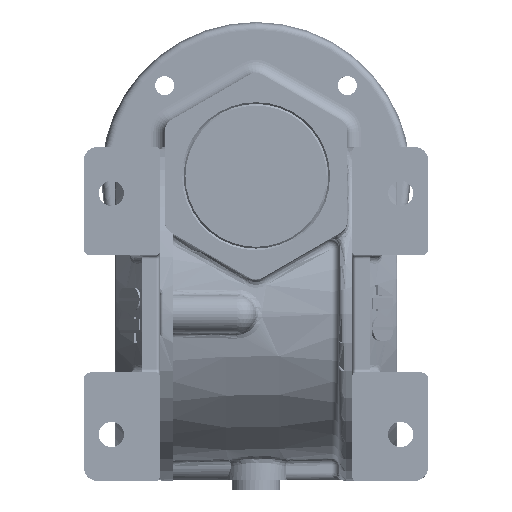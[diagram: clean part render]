
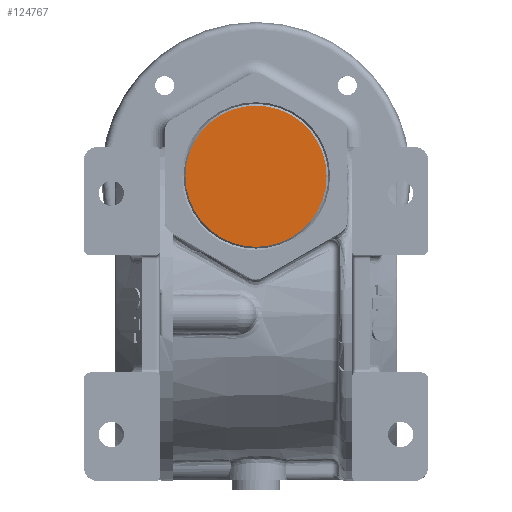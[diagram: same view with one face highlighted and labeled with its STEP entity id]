
A CAD part, top view. The second image highlights one B-rep face of the part: STEP entity #124767.
In plain terms, the highlighted planar face has unit normal (0, 0, 1).
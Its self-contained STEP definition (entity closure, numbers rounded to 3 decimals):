
#124591 = EDGE_CURVE ( 'NONE', #124592, #124593, #201325, .T. ) ;
#124592 = VERTEX_POINT ( 'NONE', #201313 ) ;
#124593 = VERTEX_POINT ( 'NONE', #201312 ) ;
#124762 = EDGE_CURVE ( 'NONE', #124593, #124592, #202318, .T. ) ;
#124767 = ADVANCED_FACE ( 'NONE', ( #202546 ), #202536, .T. ) ;
#124769 = EDGE_LOOP ( 'NONE', ( #124771, #124772 ) ) ;
#124771 = ORIENTED_EDGE ( 'NONE', *, *, #124591, .F. ) ;
#124772 = ORIENTED_EDGE ( 'NONE', *, *, #124762, .F. ) ;
#201312 = CARTESIAN_POINT ( 'NONE',  ( 0., -20.5, 0. ) ) ;
#201313 = CARTESIAN_POINT ( 'NONE',  ( 0., 20.5, 0. ) ) ;
#201315 = DIRECTION ( 'NONE',  ( 0., 1., 0. ) ) ;
#201317 = DIRECTION ( 'NONE',  ( 0., 0., -1. ) ) ;
#201320 = CARTESIAN_POINT ( 'NONE',  ( 0., 0., 0. ) ) ;
#201322 = AXIS2_PLACEMENT_3D ( 'NONE', #201320, #201317, #201315 ) ;
#201325 = CIRCLE ( 'NONE', #201322, 20.5 ) ;
#202318 = CIRCLE ( 'NONE', #202574, 20.5 ) ;
#202525 = DIRECTION ( 'NONE',  ( 0., -1., 0. ) ) ;
#202528 = DIRECTION ( 'NONE',  ( 0., 0., 1. ) ) ;
#202531 = CARTESIAN_POINT ( 'NONE',  ( 0., 0., 0. ) ) ;
#202534 = AXIS2_PLACEMENT_3D ( 'NONE', #202531, #202528, #202525 ) ;
#202536 = PLANE ( 'NONE',  #202534 ) ;
#202546 = FACE_OUTER_BOUND ( 'NONE', #124769, .T. ) ;
#202567 = DIRECTION ( 'NONE',  ( 0., 1., 0. ) ) ;
#202570 = DIRECTION ( 'NONE',  ( 0., 0., -1. ) ) ;
#202573 = CARTESIAN_POINT ( 'NONE',  ( 0., 0., 0. ) ) ;
#202574 = AXIS2_PLACEMENT_3D ( 'NONE', #202573, #202570, #202567 ) ;
